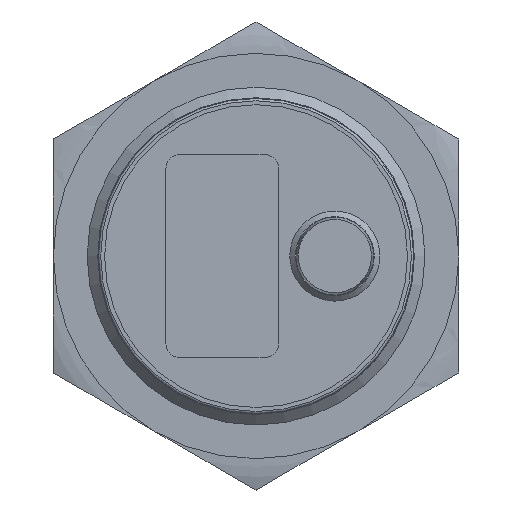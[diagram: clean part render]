
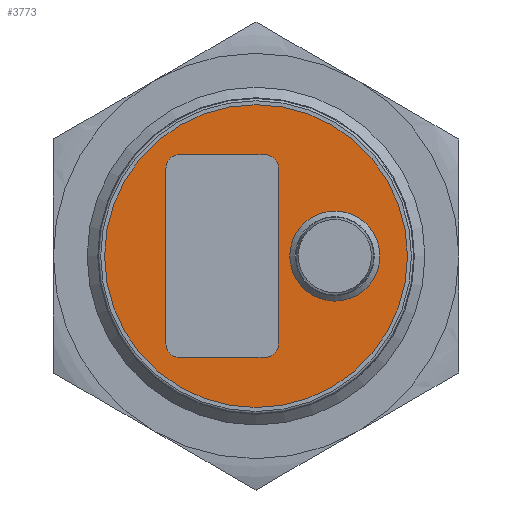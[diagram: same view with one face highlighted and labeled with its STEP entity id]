
A CAD part, left-side view. The second image highlights one B-rep face of the part: STEP entity #3773.
In plain terms, the highlighted planar face has unit normal (-1, 0, 0).
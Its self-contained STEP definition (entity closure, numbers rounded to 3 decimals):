
#1797=CARTESIAN_POINT('',(0.1,13.45,0.));
#1798=VERTEX_POINT('',#1797);
#1799=CARTESIAN_POINT('',(0.1,0.,0.0));
#1800=DIRECTION('',(1.0,0.0,0.0));
#1801=DIRECTION('',(0.0,1.0,0.0));
#1802=AXIS2_PLACEMENT_3D('',#1799,#1800,#1801);
#1803=CIRCLE('',#1802,13.45);
#1804=EDGE_CURVE('',#1798,#1798,#1803,.T.);
#3477=CARTESIAN_POINT('',(0.1,-2.,-7.8));
#3478=VERTEX_POINT('',#3477);
#3487=CARTESIAN_POINT('',(0.1,-2.,7.8));
#3488=VERTEX_POINT('',#3487);
#3489=CARTESIAN_POINT('',(0.1,-2.,7.8));
#3490=DIRECTION('',(0.0,0.0,-1.0));
#3491=VECTOR('',#3490,15.6);
#3492=LINE('',#3489,#3491);
#3493=EDGE_CURVE('',#3488,#3478,#3492,.T.);
#3517=CARTESIAN_POINT('',(0.1,8.,7.8));
#3518=VERTEX_POINT('',#3517);
#3527=CARTESIAN_POINT('',(0.1,8.,-7.8));
#3528=VERTEX_POINT('',#3527);
#3529=CARTESIAN_POINT('',(0.1,8.,-7.8));
#3530=DIRECTION('',(0.0,0.0,1.0));
#3531=VECTOR('',#3530,15.6);
#3532=LINE('',#3529,#3531);
#3533=EDGE_CURVE('',#3528,#3518,#3532,.T.);
#3567=CARTESIAN_POINT('',(0.1,6.8,-9.0));
#3568=VERTEX_POINT('',#3567);
#3569=CARTESIAN_POINT('',(0.1,6.8,-7.8));
#3570=DIRECTION('',(-1.0,0.,0.));
#3571=DIRECTION('',(0.,0.707,-0.707));
#3572=AXIS2_PLACEMENT_3D('',#3569,#3570,#3571);
#3573=CIRCLE('',#3572,1.2);
#3574=EDGE_CURVE('',#3528,#3568,#3573,.T.);
#3642=CARTESIAN_POINT('',(0.1,-0.8,9.));
#3643=VERTEX_POINT('',#3642);
#3644=CARTESIAN_POINT('',(0.1,-0.8,7.8));
#3645=DIRECTION('',(-1.0,0.,0.));
#3646=DIRECTION('',(0.,-0.707,0.707));
#3647=AXIS2_PLACEMENT_3D('',#3644,#3645,#3646);
#3648=CIRCLE('',#3647,1.2);
#3649=EDGE_CURVE('',#3488,#3643,#3648,.T.);
#3665=CARTESIAN_POINT('',(0.1,6.8,9.0));
#3666=VERTEX_POINT('',#3665);
#3675=CARTESIAN_POINT('',(0.1,6.8,9.0));
#3676=DIRECTION('',(0.0,-1.0,0.0));
#3677=VECTOR('',#3676,7.6);
#3678=LINE('',#3675,#3677);
#3679=EDGE_CURVE('',#3666,#3643,#3678,.T.);
#3691=CARTESIAN_POINT('',(0.1,6.8,7.8));
#3692=DIRECTION('',(-1.0,0.,0.));
#3693=DIRECTION('',(0.,0.707,0.707));
#3694=AXIS2_PLACEMENT_3D('',#3691,#3692,#3693);
#3695=CIRCLE('',#3694,1.2);
#3696=EDGE_CURVE('',#3666,#3518,#3695,.T.);
#3707=CARTESIAN_POINT('',(0.1,-0.8,-9.));
#3708=VERTEX_POINT('',#3707);
#3717=CARTESIAN_POINT('',(0.1,-0.8,-9.));
#3718=DIRECTION('',(0.0,1.0,0.0));
#3719=VECTOR('',#3718,7.6);
#3720=LINE('',#3717,#3719);
#3721=EDGE_CURVE('',#3708,#3568,#3720,.T.);
#3733=CARTESIAN_POINT('',(0.1,-0.8,-7.8));
#3734=DIRECTION('',(-1.0,0.,0.));
#3735=DIRECTION('',(0.,-0.707,-0.707));
#3736=AXIS2_PLACEMENT_3D('',#3733,#3734,#3735);
#3737=CIRCLE('',#3736,1.2);
#3738=EDGE_CURVE('',#3708,#3478,#3737,.T.);
#3744=CARTESIAN_POINT('',(0.1,6.725,0.));
#3745=DIRECTION('',(-1.0,0.0,0.0));
#3746=DIRECTION('',(0.0,0.0,1.0));
#3747=AXIS2_PLACEMENT_3D('',#3744,#3745,#3746);
#3748=PLANE('',#3747);
#3749=ORIENTED_EDGE('',*,*,#1804,.F.);
#3750=EDGE_LOOP('',(#3749));
#3751=FACE_OUTER_BOUND('',#3750,.T.);
#3752=CARTESIAN_POINT('',(0.1,-3.6,0.));
#3753=VERTEX_POINT('',#3752);
#3754=CARTESIAN_POINT('',(0.1,-7.,0.));
#3755=DIRECTION('',(1.0,0.0,0.0));
#3756=DIRECTION('',(0.0,1.0,0.0));
#3757=AXIS2_PLACEMENT_3D('',#3754,#3755,#3756);
#3758=CIRCLE('',#3757,3.4);
#3759=EDGE_CURVE('',#3753,#3753,#3758,.T.);
#3760=ORIENTED_EDGE('',*,*,#3759,.T.);
#3761=EDGE_LOOP('',(#3760));
#3762=FACE_BOUND('',#3761,.T.);
#3763=ORIENTED_EDGE('',*,*,#3679,.T.);
#3764=ORIENTED_EDGE('',*,*,#3649,.F.);
#3765=ORIENTED_EDGE('',*,*,#3493,.T.);
#3766=ORIENTED_EDGE('',*,*,#3738,.F.);
#3767=ORIENTED_EDGE('',*,*,#3721,.T.);
#3768=ORIENTED_EDGE('',*,*,#3574,.F.);
#3769=ORIENTED_EDGE('',*,*,#3533,.T.);
#3770=ORIENTED_EDGE('',*,*,#3696,.F.);
#3771=EDGE_LOOP('',(#3763,#3764,#3765,#3766,#3767,#3768,#3769,#3770));
#3772=FACE_BOUND('',#3771,.T.);
#3773=ADVANCED_FACE('',(#3751,#3762,#3772),#3748,.T.);
